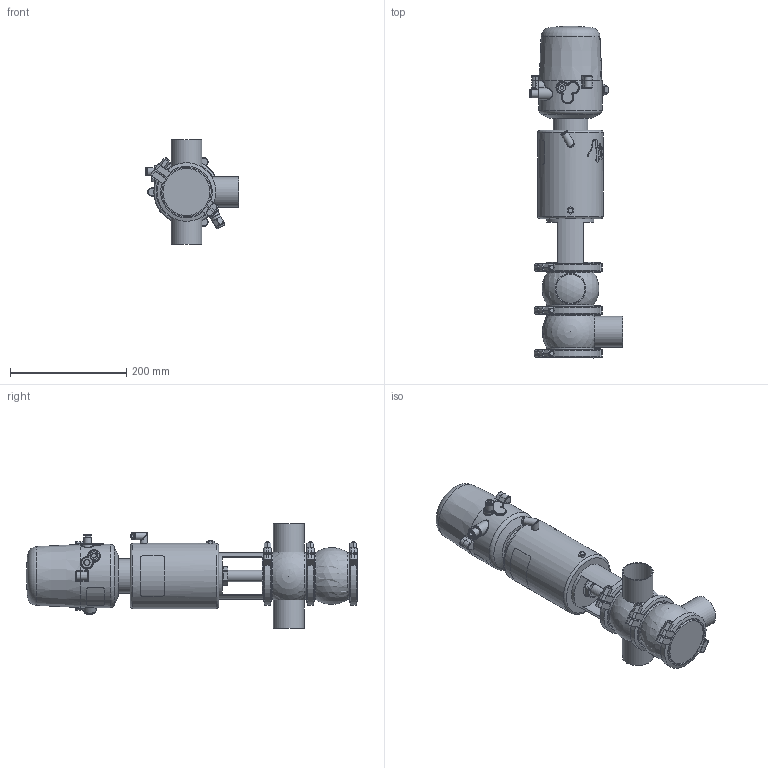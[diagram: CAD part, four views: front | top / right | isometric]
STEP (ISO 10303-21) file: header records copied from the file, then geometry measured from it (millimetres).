
FILE_DESCRIPTION (( 'STEP AP214' ), '1' );
FILE_NAME ('INNOVA M A W DIN 050 T2 AS NC & C-TOP S_10.241.16.0037.STEP', '2024-08-07T07:01:27', ( '' ), ( '' ), 'SwSTEP 2.0', 'SolidWorks 2023', '' );
FILE_SCHEMA (( 'AUTOMOTIVE_DESIGN' ));
Length unit declared in the file: millimetre
Products named in the file (9): INNOVA M A W DIN 050 T2 AS NC & C-TOP S_10.241.16.0037; 10.426.15.0001_C-TOP S - 1 EV; 10.240.15.0007_DIN 050; 10.241.15.0001_DIN 050; 10.240.15.0014_T2 AS P180; 10.240.15.0006_DIN 050; 10.240.15.0001_DN 050; 10.240.15.0017_Estàndard; 10.240.15.0010_DN 050
Assembly tree (10 placements, depth 2):
  INNOVA M A W DIN 050 T2 AS NC & C-TOP S_10.241.16.0037
    10.240.15.0007_DIN 050
    10.240.15.0006_DIN 050
    10.240.15.0010_DN 050
    10.240.15.0014_T2 AS P180
    10.240.15.0017_Estàndard
    10.426.15.0001_C-TOP S - 1 EV
    10.240.15.0001_DN 050  x3
    10.241.15.0001_DIN 050
Bounding box: 161 x 572.27 x 180 mm (x, y, z)
Volume: 4233351 mm3; surface area: 397151.8 mm2
Topology: 11 solids, 11 shells, 1238 faces, 3004 edges, 1996 vertices
Faces by surface type: plane 443, cylinder 379, cone 211, bspline 160, torus 36, sphere 9
Full cylindrical faces by diameter (mm): 0.371 x17, 0.512 x16, 0.658 x16, 0.795 x16, 0.94 x15, 1.098 x15, 1.241 x13, 1.382 x13, 1.523 x11, 1.669 x10, 2.201 x1, 4 x2, 5.5 x2, 6 x2, 6.15 x1, 8 x8, 8.5 x1, 10 x1, 10.5 x1, 11 x2, 12.5 x3, 13 x2, 13.5 x2, 16 x1, 17 x3, 20 x3, 20.5 x1, 22 x2, 31 x1, 34.5 x3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
Entity records: 58096 total; most frequent: CARTESIAN_POINT 27764, ORIENTED_EDGE 4516, DIRECTION 3673, EDGE_CURVE 2258, VERTEX_POINT 1609, EDGE_LOOP 1579, AXIS2_PLACEMENT_3D 1508, FACE_OUTER_BOUND 1339
